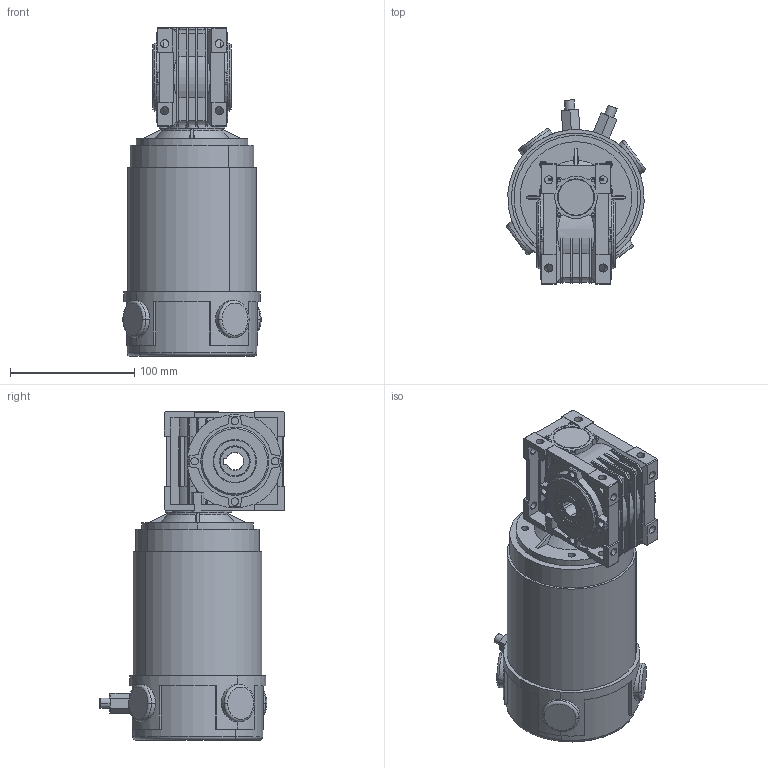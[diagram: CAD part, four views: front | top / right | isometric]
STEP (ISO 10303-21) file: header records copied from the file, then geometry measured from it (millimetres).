
FILE_DESCRIPTION (( 'STEP AP203' ), '1' );
FILE_NAME ('CMRV030-63_DC250_IP40.STEP', '2024-08-21T07:44:30', ( '' ), ( '' ), 'SwSTEP 2.0', 'SolidWorks 2021', '' );
FILE_SCHEMA (( 'CONFIG_CONTROL_DESIGN' ));
Length unit declared in the file: millimetre
Products named in the file (7): 5_2.STEP; CMRV030-63B14.STEP; 4_2.STEP; 3_2.STEP; CMRV030-63_DC250_IP40; 2_2.STEP; EC_250_120_63_B14_IP40.3d.stp
Assembly tree (6 placements, depth 3):
  CMRV030-63_DC250_IP40
    CMRV030-63B14.STEP
      2_2.STEP
      3_2.STEP
      4_2.STEP
      5_2.STEP
    EC_250_120_63_B14_IP40.3d.stp
Bounding box: 111.5 x 149.09 x 265 mm (x, y, z)
Volume: 1868649.3 mm3; surface area: 182523.9 mm2
Topology: 5 solids, 5 shells, 872 faces, 2320 edges, 1515 vertices
Faces by surface type: plane 467, cylinder 336, cone 59, torus 10
Entity records: 29305 total; most frequent: CARTESIAN_POINT 6492, DIRECTION 4644, ORIENTED_EDGE 4608, EDGE_CURVE 2304, AXIS2_PLACEMENT_3D 1610, VERTEX_POINT 1515, VECTOR 1424, LINE 1424
